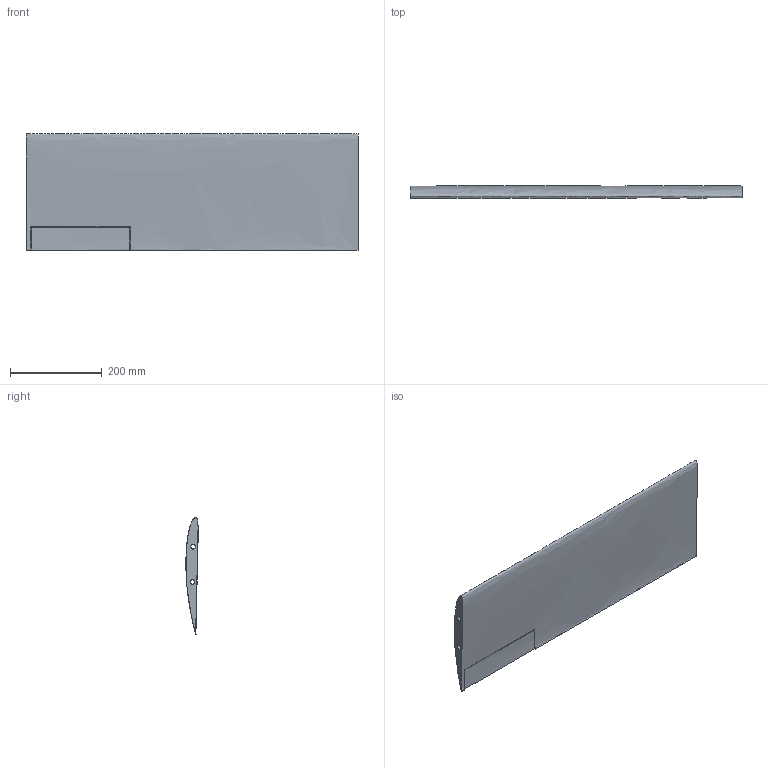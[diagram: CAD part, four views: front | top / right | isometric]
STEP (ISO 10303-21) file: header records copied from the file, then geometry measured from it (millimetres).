
FILE_DESCRIPTION(/* description */ (''),/* implementation_level */ '2;1');
FILE_NAME(/* name */ 'Wing v5.step',/* time_stamp */ '2023-09-02T21:58:28+03:00',/* author */ (''),/* organization */ (''),/* preprocessor_version */ 'ST-DEVELOPER v20',/* originating_system */ 'Autodesk Translation Framework v12.9.0.99',/* authorisation */ '');
FILE_SCHEMA (('AUTOMOTIVE_DESIGN { 1 0 10303 214 3 1 1 }'));
Length unit declared in the file: millimetre
Products named in the file (1): Wing
Bounding box: 722 x 26.61 x 254.03 mm (x, y, z)
Volume: 3135366.9 mm3; surface area: 432920.7 mm2
Topology: 2 solids, 2 shells, 15 faces, 33 edges, 20 vertices
Faces by surface type: plane 10, bspline 3, cylinder 2
Full cylindrical faces by diameter (mm): 10 x2
Entity records: 3972 total; most frequent: CARTESIAN_POINT 3625, ORIENTED_EDGE 68, DIRECTION 47, EDGE_CURVE 34, VERTEX_POINT 22, EDGE_LOOP 20, AXIS2_PLACEMENT_3D 17, FACE_OUTER_BOUND 15
